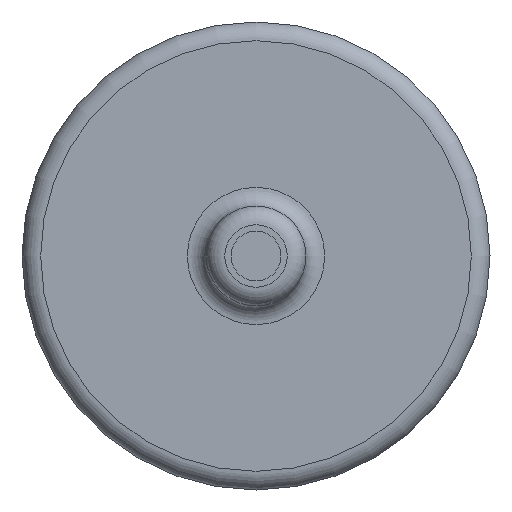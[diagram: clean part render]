
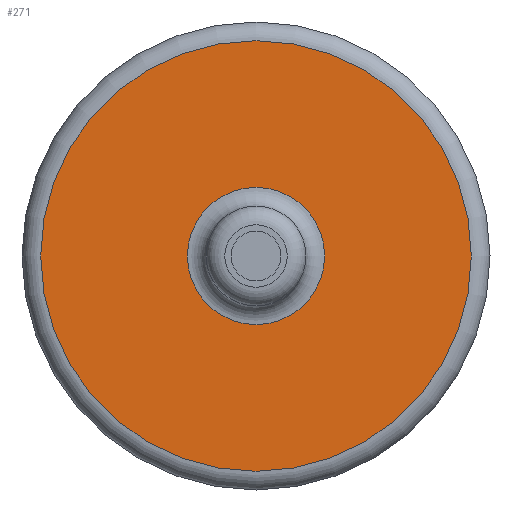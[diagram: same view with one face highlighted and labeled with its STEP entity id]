
A CAD part, left-side view. The second image highlights one B-rep face of the part: STEP entity #271.
In plain terms, the highlighted planar face has unit normal (-1, 0, 0).
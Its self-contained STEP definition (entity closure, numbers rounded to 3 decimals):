
#209=CARTESIAN_POINT('',(29.0,0.0,3.45));
#210=VERTEX_POINT('',#209);
#211=CARTESIAN_POINT('',(29.0,0.0,0.));
#212=DIRECTION('',(1.0,0.0,0.0));
#213=DIRECTION('',(0.0,0.0,-1.0));
#214=AXIS2_PLACEMENT_3D('',#211,#212,#213);
#215=CIRCLE('',#214,3.45);
#216=EDGE_CURVE('',#210,#210,#215,.T.);
#252=CARTESIAN_POINT('',(29.0,0.0,2.275));
#253=DIRECTION('',(1.0,0.0,0.0));
#254=DIRECTION('',(0.0,0.0,-1.0));
#255=AXIS2_PLACEMENT_3D('',#252,#253,#254);
#256=PLANE('',#255);
#257=ORIENTED_EDGE('',*,*,#216,.F.);
#258=EDGE_LOOP('',(#257));
#259=FACE_OUTER_BOUND('',#258,.T.);
#260=CARTESIAN_POINT('',(29.0,0.,1.1));
#261=VERTEX_POINT('',#260);
#262=CARTESIAN_POINT('',(29.0,0.0,0.));
#263=DIRECTION('',(-1.0,0.0,0.0));
#264=DIRECTION('',(0.0,0.0,-1.0));
#265=AXIS2_PLACEMENT_3D('',#262,#263,#264);
#266=CIRCLE('',#265,1.1);
#267=EDGE_CURVE('',#261,#261,#266,.T.);
#268=ORIENTED_EDGE('',*,*,#267,.F.);
#269=EDGE_LOOP('',(#268));
#270=FACE_BOUND('',#269,.T.);
#271=ADVANCED_FACE('',(#259,#270),#256,.F.);
